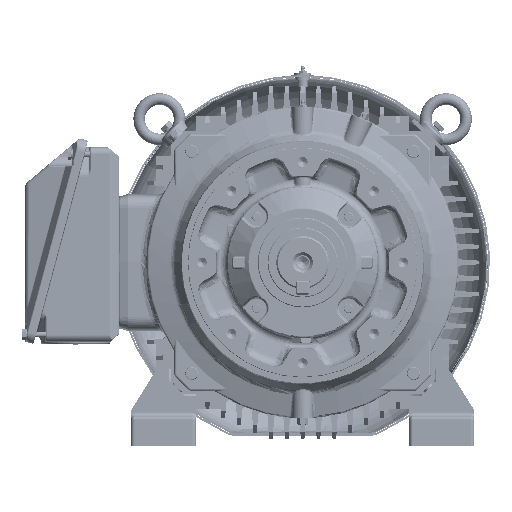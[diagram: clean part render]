
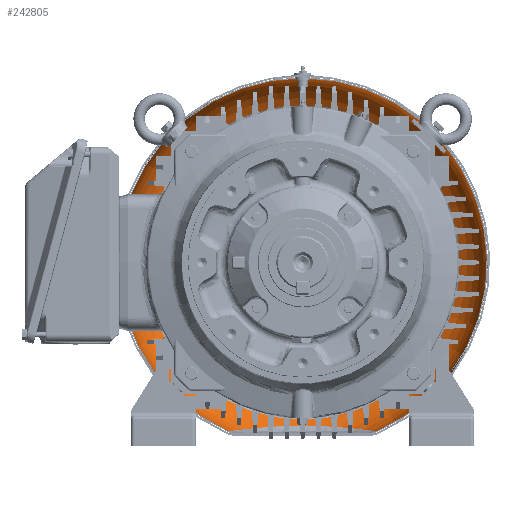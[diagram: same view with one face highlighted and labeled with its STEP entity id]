
A CAD part, front view. The second image highlights one B-rep face of the part: STEP entity #242805.
In plain terms, the highlighted toroidal (fillet/blend) face has major radius 180.5 mm and minor radius 75 mm.
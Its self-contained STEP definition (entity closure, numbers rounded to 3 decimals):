
#2144=B_SPLINE_CURVE_WITH_KNOTS('',3,(#330231,#330232,#330233,#330234,#330235,
#330236,#330237,#330238,#330239,#330240,#330241,#330242,#330243,#330244,
#330245,#330246,#330247,#330248,#330249,#330250,#330251,#330252,#330253,
#330254,#330255,#330256,#330257,#330258,#330259,#330260,#330261,#330262,
#330263,#330264,#330265,#330266,#330267,#330268,#330269,#330270,#330271,
#330272,#330273,#330274,#330275,#330276,#330277,#330278,#330279,#330280,
#330281,#330282,#330283,#330284,#330285,#330286,#330287,#330288,#330289,
#330290,#330291,#330292,#330293,#330294,#330295,#330296,#330297,#330298,
#330299,#330300,#330301,#330302,#330303,#330304,#330305,#330306,#330307,
#330308,#330309,#330310,#330311,#330312,#330313,#330314,#330315),
 .UNSPECIFIED.,.F.,.F.,(4,1,1,1,1,1,1,1,1,1,1,1,1,1,1,1,1,1,1,1,1,1,1,1,
1,1,1,1,1,1,1,1,1,1,1,1,1,1,1,1,1,1,1,1,1,1,1,1,1,1,1,1,1,1,1,1,1,1,1,1,
1,1,1,1,1,1,1,1,1,1,1,1,1,1,1,1,1,1,1,1,1,1,4),(0.,0.031,0.063,0.078,
0.094,0.102,0.109,0.117,0.121,0.123,0.125,0.127,
0.129,0.133,0.141,0.148,0.156,0.172,0.188,0.203,
0.219,0.227,0.234,0.242,0.246,0.25,0.254,0.258,
0.266,0.281,0.297,0.313,0.344,0.359,0.367,0.375,0.383,
0.391,0.406,0.438,0.469,0.5,0.531,0.563,0.594,0.609,0.617,
0.625,0.633,0.641,0.656,0.688,0.703,0.719,0.734,0.742,
0.746,0.75,0.754,0.758,0.766,0.773,0.781,0.797,
0.813,0.828,0.844,0.852,0.859,0.867,0.871,0.873,
0.875,0.877,0.879,0.883,0.891,0.898,0.906,0.922,
0.938,0.969,1.),.UNSPECIFIED.);
#36259=TOROIDAL_SURFACE('',#253733,180.5,75.);
#44812=ORIENTED_EDGE('',*,*,#94442,.T.);
#44813=ORIENTED_EDGE('',*,*,#94444,.T.);
#44814=ORIENTED_EDGE('',*,*,#94439,.F.);
#94439=EDGE_CURVE('',#119464,#119464,#132452,.T.);
#94442=EDGE_CURVE('',#119468,#119467,#132454,.T.);
#94444=EDGE_CURVE('',#119467,#119468,#2144,.T.);
#119464=VERTEX_POINT('',#330220);
#119467=VERTEX_POINT('',#330226);
#119468=VERTEX_POINT('',#330228);
#132452=CIRCLE('',#253729,218.);
#132454=CIRCLE('',#253732,255.5);
#140012=EDGE_LOOP('',(#44812,#44813));
#140013=EDGE_LOOP('',(#44814));
#153191=FACE_BOUND('',#140012,.T.);
#153192=FACE_BOUND('',#140013,.T.);
#242805=ADVANCED_FACE('',(#153191,#153192),#36259,.F.);
#253729=AXIS2_PLACEMENT_3D('',#330219,#274576,#274577);
#253732=AXIS2_PLACEMENT_3D('',#330227,#274583,#274584);
#253733=AXIS2_PLACEMENT_3D('',#330230,#274586,#274587);
#274576=DIRECTION('',(0.,-1.,0.));
#274577=DIRECTION('',(1.,0.,0.));
#274583=DIRECTION('',(0.,-1.,0.));
#274584=DIRECTION('',(0.,0.,-1.));
#274586=DIRECTION('',(0.,-1.,0.));
#274587=DIRECTION('',(1.,0.,0.));
#330219=CARTESIAN_POINT('',(0.,714.29,0.));
#330220=CARTESIAN_POINT('',(218.,714.29,0.));
#330226=CARTESIAN_POINT('',(-102.85,649.338,-233.885));
#330227=CARTESIAN_POINT('',(0.,649.338,0.));
#330228=CARTESIAN_POINT('',(102.85,649.338,-233.885));
#330230=CARTESIAN_POINT('',(0.,649.338,0.));
#330231=CARTESIAN_POINT('',(-102.85,649.338,-233.885));
#330232=CARTESIAN_POINT('',(-102.85,652.013,-233.885));
#330233=CARTESIAN_POINT('',(-102.314,657.295,-233.808));
#330234=CARTESIAN_POINT('',(-100.336,663.66,-233.559));
#330235=CARTESIAN_POINT('',(-97.993,668.573,-233.28));
#330236=CARTESIAN_POINT('',(-96.219,671.563,-233.071));
#330237=CARTESIAN_POINT('',(-94.618,673.903,-232.884));
#330238=CARTESIAN_POINT('',(-93.326,675.632,-232.734));
#330239=CARTESIAN_POINT('',(-92.179,677.047,-232.599));
#330240=CARTESIAN_POINT('',(-91.332,678.032,-232.5));
#330241=CARTESIAN_POINT('',(-90.846,678.581,-232.442));
#330242=CARTESIAN_POINT('',(-90.451,679.018,-232.396));
#330243=CARTESIAN_POINT('',(-90.146,679.35,-232.36));
#330244=CARTESIAN_POINT('',(-89.703,679.825,-232.307));
#330245=CARTESIAN_POINT('',(-88.931,680.633,-232.216));
#330246=CARTESIAN_POINT('',(-87.788,681.772,-232.082));
#330247=CARTESIAN_POINT('',(-86.37,683.1,-231.917));
#330248=CARTESIAN_POINT('',(-84.413,684.823,-231.691));
#330249=CARTESIAN_POINT('',(-81.846,686.889,-231.4));
#330250=CARTESIAN_POINT('',(-78.579,689.227,-231.04));
#330251=CARTESIAN_POINT('',(-75.132,691.429,-230.673));
#330252=CARTESIAN_POINT('',(-72.114,693.151,-230.363));
#330253=CARTESIAN_POINT('',(-69.615,694.463,-230.112));
#330254=CARTESIAN_POINT('',(-67.702,695.415,-229.923));
#330255=CARTESIAN_POINT('',(-66.066,696.184,-229.764));
#330256=CARTESIAN_POINT('',(-64.753,696.777,-229.637));
#330257=CARTESIAN_POINT('',(-63.714,697.233,-229.538));
#330258=CARTESIAN_POINT('',(-62.834,697.609,-229.454));
#330259=CARTESIAN_POINT('',(-61.598,698.125,-229.338));
#330260=CARTESIAN_POINT('',(-59.446,698.988,-229.138));
#330261=CARTESIAN_POINT('',(-56.317,700.15,-228.856));
#330262=CARTESIAN_POINT('',(-52.503,701.421,-228.53));
#330263=CARTESIAN_POINT('',(-47.328,702.966,-228.115));
#330264=CARTESIAN_POINT('',(-42.027,704.291,-227.734));
#330265=CARTESIAN_POINT('',(-37.263,705.278,-227.433));
#330266=CARTESIAN_POINT('',(-34.521,705.792,-227.272));
#330267=CARTESIAN_POINT('',(-32.406,706.161,-227.154));
#330268=CARTESIAN_POINT('',(-30.433,706.481,-227.049));
#330269=CARTESIAN_POINT('',(-27.752,706.886,-226.913));
#330270=CARTESIAN_POINT('',(-23.08,707.51,-226.699));
#330271=CARTESIAN_POINT('',(-16.372,708.184,-226.458));
#330272=CARTESIAN_POINT('',(-8.276,708.661,-226.287));
#330273=CARTESIAN_POINT('',(-0.066,708.82,-226.232));
#330274=CARTESIAN_POINT('',(8.185,708.665,-226.286));
#330275=CARTESIAN_POINT('',(16.299,708.189,-226.457));
#330276=CARTESIAN_POINT('',(23.025,707.516,-226.697));
#330277=CARTESIAN_POINT('',(27.711,706.892,-226.912));
#330278=CARTESIAN_POINT('',(30.398,706.487,-227.047));
#330279=CARTESIAN_POINT('',(32.38,706.166,-227.152));
#330280=CARTESIAN_POINT('',(34.487,705.799,-227.27));
#330281=CARTESIAN_POINT('',(37.225,705.286,-227.431));
#330282=CARTESIAN_POINT('',(41.98,704.302,-227.73));
#330283=CARTESIAN_POINT('',(47.273,702.981,-228.111));
#330284=CARTESIAN_POINT('',(52.443,701.44,-228.526));
#330285=CARTESIAN_POINT('',(56.254,700.171,-228.851));
#330286=CARTESIAN_POINT('',(59.381,699.013,-229.132));
#330287=CARTESIAN_POINT('',(61.532,698.152,-229.332));
#330288=CARTESIAN_POINT('',(62.768,697.637,-229.448));
#330289=CARTESIAN_POINT('',(63.648,697.262,-229.532));
#330290=CARTESIAN_POINT('',(64.686,696.807,-229.631));
#330291=CARTESIAN_POINT('',(65.998,696.216,-229.757));
#330292=CARTESIAN_POINT('',(67.633,695.448,-229.916));
#330293=CARTESIAN_POINT('',(69.546,694.498,-230.105));
#330294=CARTESIAN_POINT('',(72.046,693.187,-230.357));
#330295=CARTESIAN_POINT('',(75.065,691.466,-230.668));
#330296=CARTESIAN_POINT('',(78.518,689.265,-231.036));
#330297=CARTESIAN_POINT('',(81.793,686.924,-231.397));
#330298=CARTESIAN_POINT('',(84.368,684.855,-231.689));
#330299=CARTESIAN_POINT('',(86.334,683.127,-231.915));
#330300=CARTESIAN_POINT('',(87.759,681.796,-232.081));
#330301=CARTESIAN_POINT('',(88.908,680.654,-232.215));
#330302=CARTESIAN_POINT('',(89.684,679.844,-232.306));
#330303=CARTESIAN_POINT('',(90.13,679.367,-232.358));
#330304=CARTESIAN_POINT('',(90.438,679.033,-232.394));
#330305=CARTESIAN_POINT('',(90.832,678.597,-232.44));
#330306=CARTESIAN_POINT('',(91.319,678.049,-232.497));
#330307=CARTESIAN_POINT('',(92.166,677.067,-232.596));
#330308=CARTESIAN_POINT('',(93.315,675.654,-232.73));
#330309=CARTESIAN_POINT('',(94.607,673.927,-232.88));
#330310=CARTESIAN_POINT('',(96.21,671.589,-233.066));
#330311=CARTESIAN_POINT('',(97.986,668.601,-233.275));
#330312=CARTESIAN_POINT('',(100.331,663.687,-233.556));
#330313=CARTESIAN_POINT('',(102.313,657.316,-233.807));
#330314=CARTESIAN_POINT('',(102.85,652.02,-233.885));
#330315=CARTESIAN_POINT('',(102.85,649.338,-233.885));
